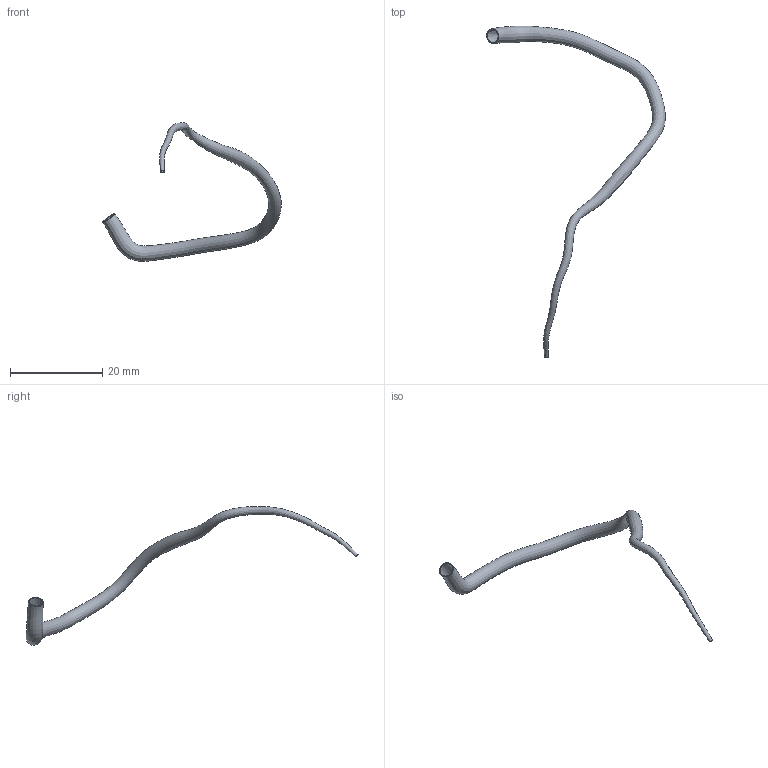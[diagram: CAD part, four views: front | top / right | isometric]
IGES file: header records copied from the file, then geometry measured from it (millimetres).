
Global section: file name: C:\Documents and Settings\Administrator\Desktop\FDA-Pig\Domestic RCA\Pig_000138\rca.seg.es.igs; native system: Rhinoceros ( May 19 2006 ); preprocessor: Trout Lake IGES 012 May 19 2006; date: 111205.185947; units: centimetre
Bounding box: 38.78 x 72.06 x 30.14 mm (x, y, z)
Surface area: 1782.2 mm2 (no closed solid volume)
Topology: 0 solids, 0 shells, 4 faces, 13 edges, 10 vertices
Faces by surface type: bspline 4
